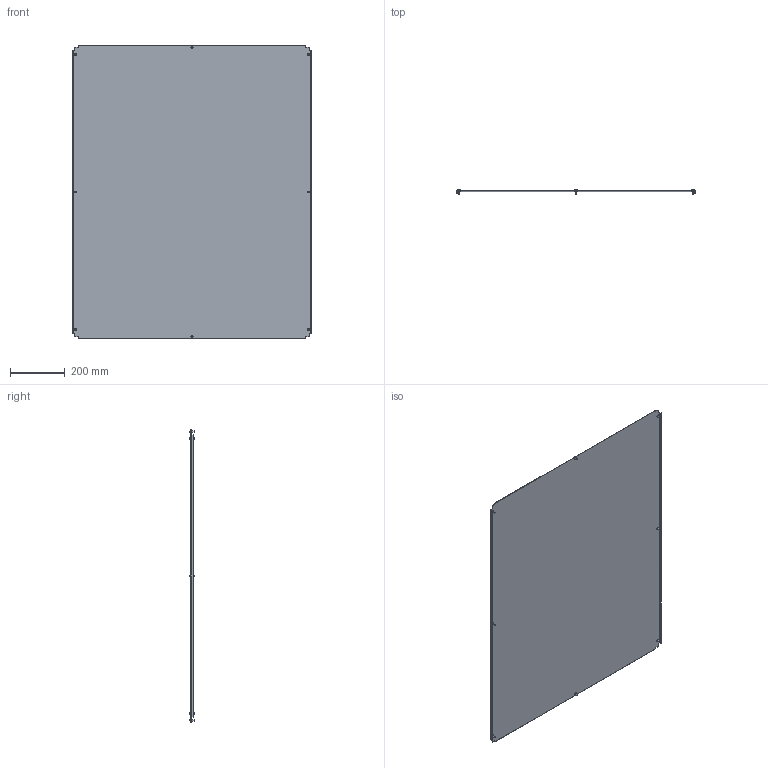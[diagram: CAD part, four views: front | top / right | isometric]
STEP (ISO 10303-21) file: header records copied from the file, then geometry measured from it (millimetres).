
FILE_DESCRIPTION (( 'STEP AP203' ), '1' );
FILE_NAME ('R5N1BP1012.STEP', '2025-02-21T13:57:06', ( '' ), ( '' ), 'SwSTEP 2.0', 'SolidWorks 2022', '' );
FILE_SCHEMA (( 'CONFIG_CONTROL_DESIGN' ));
Length unit declared in the file: millimetre
Products named in the file (3): R5N1BP1012; RB.1923.00.00.0_-17; M5x12 DIN 7500 C Torx Zinc_stright
Assembly tree (9 placements, depth 2):
  R5N1BP1012
    RB.1923.00.00.0_-17
    M5x12 DIN 7500 C Torx Zinc_stright  x8
Bounding box: 868 x 15.56 x 1062 mm (x, y, z)
Volume: 1407563.3 mm3; surface area: 1881727 mm2
Topology: 9 solids, 9 shells, 206 faces, 468 edges, 288 vertices
Faces by surface type: plane 126, cylinder 32, torus 16, cone 16, sphere 8, bspline 8
Full cylindrical faces by diameter (mm): 5 x8, 9.5 x8
Entity records: 3641 total; most frequent: CARTESIAN_POINT 724, DIRECTION 496, ORIENTED_EDGE 496, EDGE_CURVE 248, LINE 196, VECTOR 196, VERTEX_POINT 166, AXIS2_PLACEMENT_3D 150
